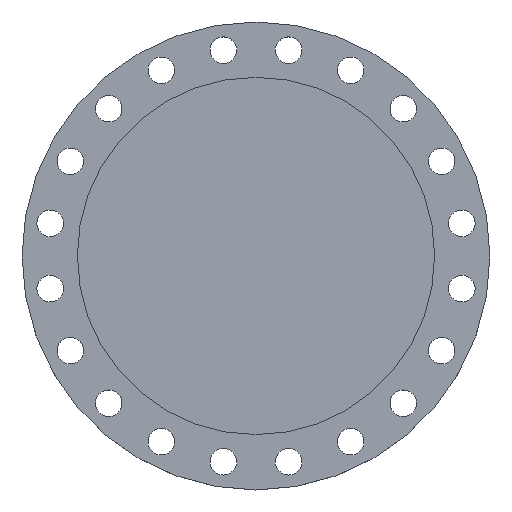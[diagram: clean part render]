
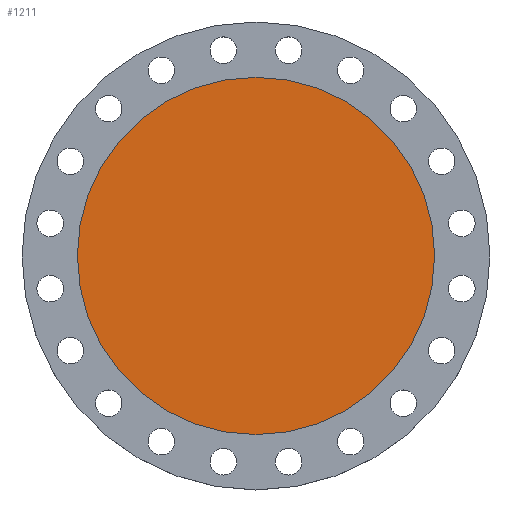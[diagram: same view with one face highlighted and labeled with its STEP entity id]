
A CAD part, top view. The second image highlights one B-rep face of the part: STEP entity #1211.
In plain terms, the highlighted planar face has unit normal (0, 0, 1).
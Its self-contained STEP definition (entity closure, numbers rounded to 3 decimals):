
#36 = CARTESIAN_POINT ( 'NONE',  ( 261.5, 0., 0. ) ) ;
#71 = CARTESIAN_POINT ( 'NONE',  ( 0., 0., 0. ) ) ;
#117 = DIRECTION ( 'NONE',  ( 0., 0., -1. ) ) ;
#157 = VERTEX_POINT ( 'NONE', #1472 ) ;
#217 = DIRECTION ( 'NONE',  ( -1., 0., 0. ) ) ;
#228 = CIRCLE ( 'NONE', #275, 261.5 ) ;
#275 = AXIS2_PLACEMENT_3D ( 'NONE', #1390, #117, #707 ) ;
#628 = DIRECTION ( 'NONE',  ( 0., 0., 1. ) ) ;
#665 = ORIENTED_EDGE ( 'NONE', *, *, #1361, .F. ) ;
#670 = ORIENTED_EDGE ( 'NONE', *, *, #1408, .F. ) ;
#707 = DIRECTION ( 'NONE',  ( -1., 0., 0. ) ) ;
#825 = FACE_OUTER_BOUND ( 'NONE', #1578, .T. ) ;
#996 = CARTESIAN_POINT ( 'NONE',  ( 0., 0., 0. ) ) ;
#1183 = AXIS2_PLACEMENT_3D ( 'NONE', #996, #1492, #217 ) ;
#1189 = CIRCLE ( 'NONE', #1183, 261.5 ) ;
#1211 = ADVANCED_FACE ( 'NONE', ( #825 ), #1344, .T. ) ;
#1234 = DIRECTION ( 'NONE',  ( 1., 0., 0. ) ) ;
#1286 = AXIS2_PLACEMENT_3D ( 'NONE', #71, #628, #1234 ) ;
#1344 = PLANE ( 'NONE',  #1286 ) ;
#1361 = EDGE_CURVE ( 'NONE', #157, #1566, #1189, .T. ) ;
#1390 = CARTESIAN_POINT ( 'NONE',  ( 0., 0., 0. ) ) ;
#1408 = EDGE_CURVE ( 'NONE', #1566, #157, #228, .T. ) ;
#1472 = CARTESIAN_POINT ( 'NONE',  ( -261.5, 0., 0. ) ) ;
#1492 = DIRECTION ( 'NONE',  ( 0., 0., -1. ) ) ;
#1566 = VERTEX_POINT ( 'NONE', #36 ) ;
#1578 = EDGE_LOOP ( 'NONE', ( #665, #670 ) ) ;
